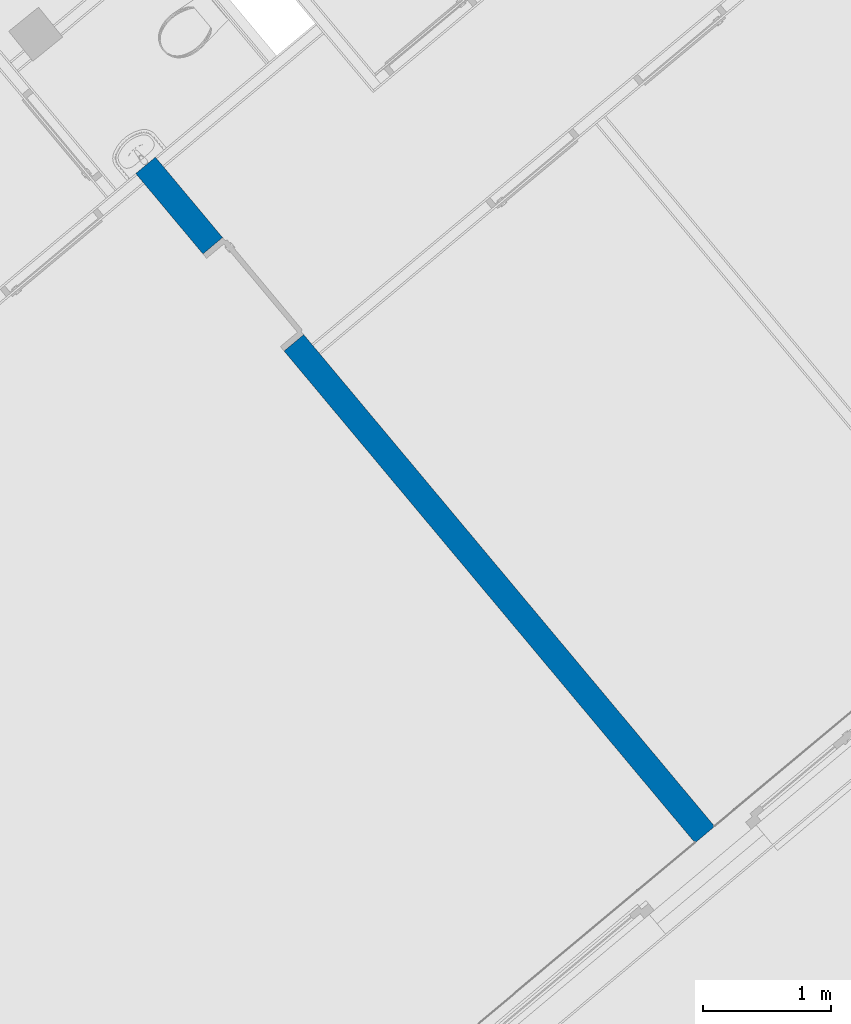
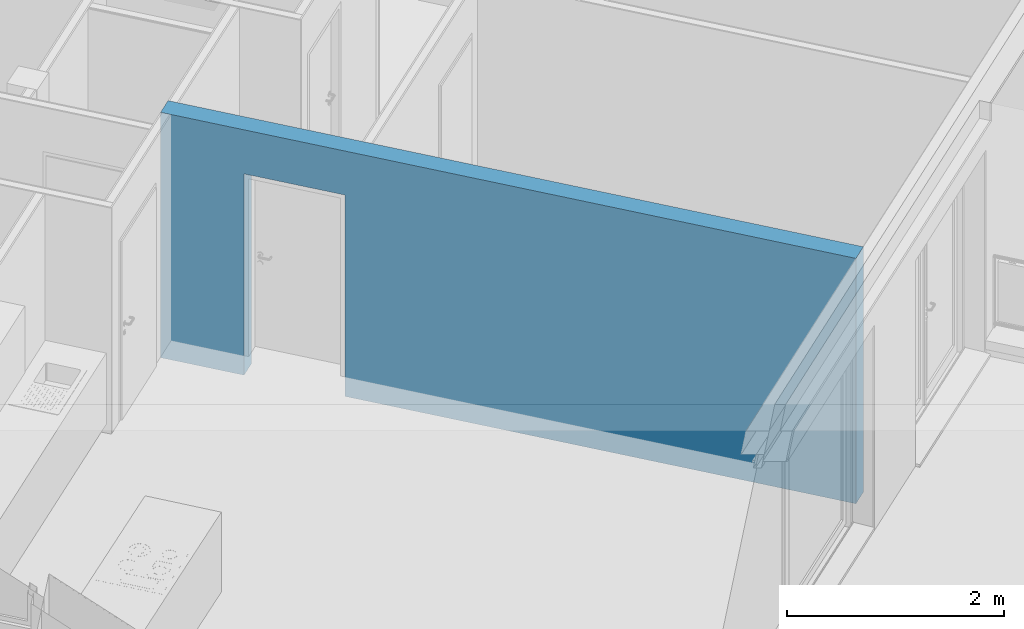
# One storey, part 2 of 50: 1 wall, 1 opening.
"""IFC4 building model written with IfcOpenShell, lengths in metres."""

import ifcopenshell
import ifcopenshell.guid

model = None  # the IFC model being written
_history = None  # IfcOwnerHistory: only IFC2X3 demands one
_inside = {}  # id of a spatial element -> (the spatial element, [elements in it])
_under = {}  # id of a project, library or spatial element -> (it, [spatial elements below it])
_declared = {}  # id of a project -> (the project, [libraries it declares])
_typed = {}  # id of a type object -> (the type object, [elements of that type])
_made_of = {}  # id of a material, layer set ... -> (it, [elements and type objects made of it])


def new_model(schema):
    """Start an empty IFC model of exactly this schema.

    Asked for "IFC4X3", IfcOpenShell would pick the latest addendum, in which some entities
    have other attributes; the version numbers below select the first issue.
    IFC2X3 requires an IfcOwnerHistory on every rooted entity: one is made here for all.
    """
    global model, _history
    if schema == "IFC4X3":
        model = ifcopenshell.file(schema_version=(4, 3, 0, 0))
    else:
        model = ifcopenshell.file(schema=schema)
    _inside.clear()
    _under.clear()
    _declared.clear()
    _typed.clear()
    _made_of.clear()
    _history = None
    if model.schema == "IFC2X3":
        org = make("IfcOrganization", Name="unknown")
        user = make(
            "IfcPersonAndOrganization",
            ThePerson=make("IfcPerson", FamilyName="unknown"),
            TheOrganization=org,
        )
        app = make(
            "IfcApplication",
            ApplicationDeveloper=org,
            Version="unknown",
            ApplicationFullName="unknown",
            ApplicationIdentifier="unknown",
        )
        _history = make(
            "IfcOwnerHistory",
            OwningUser=user,
            OwningApplication=app,
            ChangeAction="ADDED",
            CreationDate=0,
        )
    return model


def make(cls, **values):
    """One entity of the class cls with the attributes given. An attribute that is None is left unset."""
    return model.create_entity(
        cls, **{name: value for name, value in values.items() if value is not None}
    )


def entity(cls, *values):
    """Any entity or typed value of the class cls, its attributes in the order of the schema. None: left unset."""
    e = model.create_entity(cls)
    for i, value in enumerate(values):
        if value is not None:
            e[i] = value
    return e


def rooted(cls, **values):
    """An entity with a GlobalId (a new one), such as an element, a storey or a relation."""
    return make(cls, GlobalId=ifcopenshell.guid.new(), OwnerHistory=_history, **values)


def si_unit(unit_type, name, prefix=None):
    """IfcSIUnit, for example si_unit("LENGTHUNIT", "METRE", prefix="MILLI")."""
    return make("IfcSIUnit", UnitType=unit_type, Prefix=prefix, Name=name)


def converted_unit(unit_type, name, factor, base, dimensions=None, offset=None):
    """IfcConversionBasedUnit, such as the inch: factor (a typed value) times the base unit."""
    return make(
        "IfcConversionBasedUnit"
        if offset is None
        else "IfcConversionBasedUnitWithOffset",
        ConversionOffset=offset,
        Dimensions=None
        if dimensions is None
        else entity("IfcDimensionalExponents", *dimensions),
        UnitType=unit_type,
        Name=name,
        ConversionFactor=make(
            "IfcMeasureWithUnit", ValueComponent=factor, UnitComponent=base
        ),
    )


def derived_unit(unit_type, elements):
    """IfcDerivedUnit: a product of units, each with its exponent."""
    return make(
        "IfcDerivedUnit",
        Elements=[
            make("IfcDerivedUnitElement", Unit=unit, Exponent=power)
            for unit, power in elements
        ],
        UnitType=unit_type,
    )


def assignment(units):
    """IfcUnitAssignment: the units of a project."""
    return None if units is None else make("IfcUnitAssignment", Units=units)


def point(xyz):
    """IfcCartesianPoint."""
    return None if xyz is None else make("IfcCartesianPoint", Coordinates=xyz)


def direction(xyz):
    """IfcDirection."""
    return None if xyz is None else make("IfcDirection", DirectionRatios=xyz)


def frame(location, z_axis=None, x_axis=None):
    """IfcAxis2Placement3D, a coordinate frame: its origin and axes. An axis left out is left unset."""
    return make(
        "IfcAxis2Placement3D",
        Location=point(location),
        Axis=direction(z_axis),
        RefDirection=direction(x_axis),
    )


def origin_with_axes():
    """The frame at (0, 0, 0) with the z axis (0, 0, 1) and the x axis (1, 0, 0) written out."""
    return frame((0.0, 0.0, 0.0), z_axis=(0.0, 0.0, 1.0), x_axis=(1.0, 0.0, 0.0))


def place(relative_to, where):
    """IfcLocalPlacement: puts the frame where relative to a parent placement (None: the world)."""
    return make(
        "IfcLocalPlacement", PlacementRelTo=relative_to, RelativePlacement=where
    )


def context(
    kind, dimensions, precision=None, world=None, true_north=None, identifier=None
):
    """IfcGeometricRepresentationContext, for example the 3D "Model" context."""
    return make(
        "IfcGeometricRepresentationContext",
        ContextIdentifier=identifier,
        ContextType=kind,
        CoordinateSpaceDimension=dimensions,
        Precision=precision,
        WorldCoordinateSystem=world,
        TrueNorth=true_north,
    )


def subcontext(parent, identifier, kind, view, scale=None):
    """IfcGeometricRepresentationSubContext, for example "Body" below "Model"."""
    return make(
        "IfcGeometricRepresentationSubContext",
        ContextIdentifier=identifier,
        ContextType=kind,
        ParentContext=parent,
        TargetScale=scale,
        TargetView=view,
    )


def project(units=None, contexts=None):
    """IfcProject with its units and contexts."""
    return rooted(
        "IfcProject",
        Name="project",
        RepresentationContexts=contexts,
        UnitsInContext=assignment(units),
    )


def spatial(cls, under=None, at=None, **own):
    """A site, building, storey or space (cls), placed at a placement, below another one or the project."""
    s = rooted(cls, ObjectPlacement=at, **own)
    if under is not None:
        _under.setdefault(under.id(), (under, []))[1].append(s)
    return s


def point_list(points):
    """IfcCartesianPointList2D or 3D."""
    cls = (
        "IfcCartesianPointList2D" if len(points[0]) == 2 else "IfcCartesianPointList3D"
    )
    return make(cls, CoordList=points)


def polygons(points, faces, closed=None, point_numbers=None):
    """IfcPolygonalFaceSet: a face is its outer loop, then its inner loops; points numbered from 1."""
    made = []
    for loops in faces:
        if len(loops) == 1:
            made.append(make("IfcIndexedPolygonalFace", CoordIndex=loops[0]))
        else:
            made.append(
                make(
                    "IfcIndexedPolygonalFaceWithVoids",
                    CoordIndex=loops[0],
                    InnerCoordIndices=loops[1:],
                )
            )
    return make(
        "IfcPolygonalFaceSet",
        Coordinates=point_list(points),
        Closed=closed,
        Faces=made,
        PnIndex=point_numbers,
    )


def shape(context_of_items, identifier, shape_type, items):
    """IfcShapeRepresentation: the items that make up one representation, for example the "Body"."""
    return make(
        "IfcShapeRepresentation",
        ContextOfItems=context_of_items,
        RepresentationIdentifier=identifier,
        RepresentationType=shape_type,
        Items=items,
    )


def material(Name=None, Category=None):
    """IfcMaterial."""
    return make("IfcMaterial", Name=Name, Category=Category)


def made_of(thing, what):
    """Note that an element or type object is made of a material, layer set ...; save() writes the relation."""
    if what is not None:
        _made_of.setdefault(what.id(), (what, []))[1].append(thing)
    return thing


def type_object(cls, material=None, **own):
    """A type object (cls), such as IfcWallType, which elements share."""
    return made_of(rooted(cls, **own), material)


def element(
    cls,
    number,
    at=None,
    inside=None,
    cuts=None,
    type_object=None,
    material=None,
    context=None,
    identifier="Body",
    shape_type=None,
    held_by="IfcProductDefinitionShape",
    body=None,
    shapes=None,
    **own,
):
    """One element of the class cls, such as IfcWall. Its Tag is "e" and its number.

    at: its placement. inside: the storey or other place that contains it. cuts: it is an
    opening in that element (IfcRelVoidsElement). A single representation is given by context,
    identifier, shape_type and body (its items); several are given by shapes. held_by: the class
    of the entity that holds the representations. save() writes the other relations.
    """
    e = rooted(cls, Tag="e%d" % number, ObjectPlacement=at, **own)
    if body is not None:
        shapes = [shape(context, identifier, shape_type, body)]
    if shapes is not None:
        e.Representation = make(held_by, Representations=shapes)
    if inside is not None:
        _inside.setdefault(inside.id(), (inside, []))[1].append(e)
    if cuts is not None:
        rooted(
            "IfcRelVoidsElement", RelatingBuildingElement=cuts, RelatedOpeningElement=e
        )
    if type_object is not None:
        _typed.setdefault(type_object.id(), (type_object, []))[1].append(e)
    return made_of(e, material)


def aggregate(whole, parts):
    """IfcRelAggregates: a whole, such as a stair, and the parts it consists of."""
    return rooted("IfcRelAggregates", RelatingObject=whole, RelatedObjects=parts)


def save(model, path):
    """Write the relations noted so far, then the file.

    IfcRelAggregates (storeys below a building ...), IfcRelContainedInSpatialStructure (elements
    in a storey), IfcRelDefinesByType, IfcRelAssociatesMaterial and IfcRelDeclares: one each for
    every whole, place, type object, material and project.
    """
    for whole, parts in _under.values():
        aggregate(whole, parts)
    for where, things in _inside.values():
        rooted(
            "IfcRelContainedInSpatialStructure",
            RelatedElements=things,
            RelatingStructure=where,
        )
    for kind, things in _typed.values():
        rooted("IfcRelDefinesByType", RelatedObjects=things, RelatingType=kind)
    for what, things in _made_of.values():
        rooted("IfcRelAssociatesMaterial", RelatedObjects=things, RelatingMaterial=what)
    for by, libraries in _declared.values():
        rooted("IfcRelDeclares", RelatingContext=by, RelatedDefinitions=libraries)
    model.write(path)


model = new_model("IFC4")

# Units and contexts
model_context = context("Model", 3, precision=1e-05, world=origin_with_axes(), true_north=direction((0.0, 1.0)))
body_context = subcontext(model_context, "Body", "Model", "MODEL_VIEW")
ifc_project = project(units=[si_unit("LENGTHUNIT", "METRE"), si_unit("AREAUNIT", "SQUARE_METRE"), si_unit("VOLUMEUNIT", "CUBIC_METRE"), converted_unit("PLANEANGLEUNIT", "DEGREE", entity("IfcPlaneAngleMeasure", 0.0174532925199), si_unit("PLANEANGLEUNIT", "RADIAN"), dimensions=[0, 0, 0, 0, 0, 0, 0]), converted_unit("TIMEUNIT", "Year", entity("IfcTimeMeasure", 31556926.0), si_unit("TIMEUNIT", "SECOND"), dimensions=[0, 0, 1, 0, 0, 0, 0]), si_unit("MASSUNIT", "GRAM", prefix="KILO"), si_unit("THERMODYNAMICTEMPERATUREUNIT", "DEGREE_CELSIUS"), si_unit("LUMINOUSINTENSITYUNIT", "LUMEN"), si_unit("ENERGYUNIT", "JOULE", prefix="MEGA"), derived_unit("THERMALCONDUCTANCEUNIT", [(si_unit("POWERUNIT", "WATT"), 1), (si_unit("LENGTHUNIT", "METRE"), -1), (si_unit("THERMODYNAMICTEMPERATUREUNIT", "KELVIN"), -1)]), derived_unit("SPECIFICHEATCAPACITYUNIT", [(si_unit("ENERGYUNIT", "JOULE"), 1), (si_unit("MASSUNIT", "GRAM", prefix="KILO"), -1), (si_unit("THERMODYNAMICTEMPERATUREUNIT", "KELVIN"), -1)]), derived_unit("MASSDENSITYUNIT", [(si_unit("MASSUNIT", "GRAM", prefix="KILO"), 1), (si_unit("VOLUMEUNIT", "CUBIC_METRE"), -1)])], contexts=[model_context])

# Site, building, storey
site_placement = place(None, frame((-0.00153261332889, -0.00661245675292, 0.0), z_axis=(0.0, 0.0, 1.0), x_axis=(1.0, 0.0, 0.0)))
site = spatial("IfcSite", under=ifc_project, at=site_placement, Name="Site", CompositionType="ELEMENT")
building_placement = place(site_placement, origin_with_axes())
building = spatial("IfcBuilding", under=site, at=building_placement, Name="Building", CompositionType="ELEMENT")
storey_placement = place(building_placement, frame((0.0, 0.0, 2.74), z_axis=(0.0, 0.0, 1.0), x_axis=(1.0, 0.0, 0.0)))
storey = spatial("IfcBuildingStorey", under=building, at=storey_placement, Name="OG1", CompositionType="ELEMENT", Elevation=2.74)

# Wall, opening
ifc_material = material(Name="Stahlbeton Wand")
wall_type = type_object("IfcWallType", Name="Stahlbeton Wand 200", PredefinedType="NOTDEFINED")
wall_placement = place(storey_placement, frame((3.94303822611, 12.3679977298, 0.0), z_axis=(0.0, 0.0, 1.0), x_axis=(-0.641209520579, 0.767365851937, 0.0)))
wall = element("IfcWall", 1, at=wall_placement, inside=storey, type_object=wall_type, material=ifc_material, Name="Wand-003", PredefinedType="NOTDEFINED", context=body_context, shape_type="Tessellation", body=[
    polygons([(6.41913889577, 0.0, 2.265), (6.41913889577, 2.94023827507e-09, 0.22), (6.41913886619, 2.94023827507e-09, 0.0), (7.23878509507, 0.0, 0.0), (7.23878509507, 0.0, 2.76), (0.415000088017, 0.0, 2.76), (0.415000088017, 0.0, 0.0), (5.42913889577, 2.36726034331e-08, 0.0), (5.42913889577, 2.36726016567e-08, 0.22), (5.42913889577, 0.0, 2.265), (6.41913889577, 0.2, 2.265), (6.41913889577, 0.2, 0.22), (6.41913886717, 0.2, 0.0), (7.23878509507, 0.2, 0.0), (7.23878509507, 0.2, 2.76), (0.414869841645, 0.2, 2.76), (0.414869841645, 0.2, 0.0), (5.42913889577, 0.2, 0.0), (5.42913889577, 0.2, 0.22), (5.42913889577, 0.2, 2.265)], [[[1, 2, 3, 4, 5, 6, 7, 8, 9, 10]], [[2, 1, 11, 12]], [[2, 12, 13, 3]], [[3, 13, 14, 4]], [[4, 14, 15, 5]], [[5, 15, 16, 6]], [[16, 17, 7, 6]], [[18, 8, 7, 17]], [[19, 9, 8, 18]], [[10, 9, 19, 20]], [[1, 10, 20, 11]], [[20, 19, 18, 17, 16, 15, 14, 13, 12, 11]]], closed=True),
])
opening_placement = place(wall_placement, frame((5.92413889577, 0.0, 0.22), z_axis=(0.0, 0.0, 1.0), x_axis=(1.0, 0.0, 0.0)))
element("IfcOpeningElement", 2, at=opening_placement, cuts=wall, Name="Tür-017", context=body_context, identifier="Reference", shape_type="Tessellation", body=[
    polygons([(0.495, 3.7627883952, 2.045), (0.495, 3.7627883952, -0.22), (-0.495, 3.7627883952, -0.22), (-0.495, 3.7627883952, 2.045), (0.495, -3.5627883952, 2.045), (0.495, -3.5627883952, -0.22), (-0.495, -3.5627883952, -0.22), (-0.495, -3.5627883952, 2.045)], [[[1, 2, 3, 4]], [[5, 6, 2, 1]], [[6, 7, 3, 2]], [[7, 8, 4, 3]], [[8, 5, 1, 4]], [[7, 6, 5, 8]]], closed=True),
])

save(model, "model.ifc")
